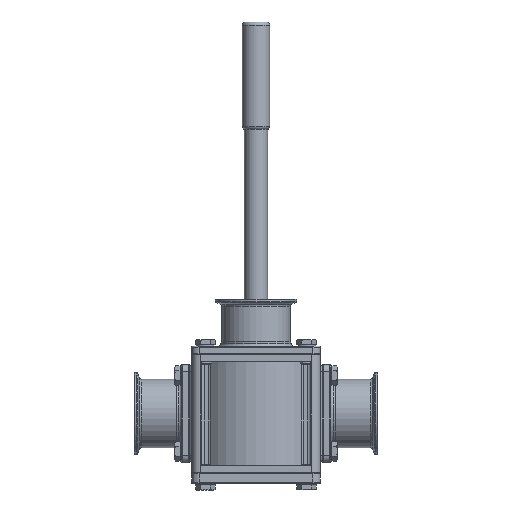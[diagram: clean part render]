
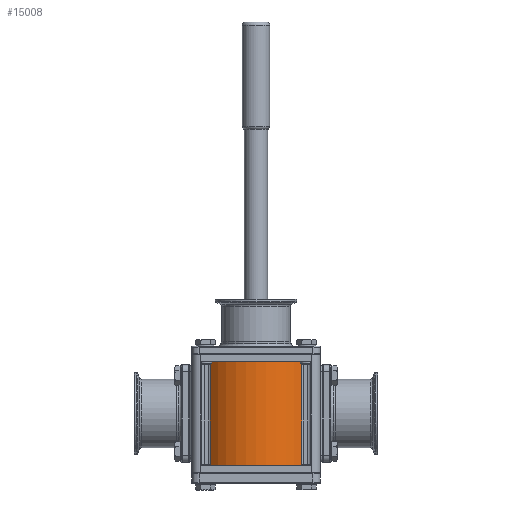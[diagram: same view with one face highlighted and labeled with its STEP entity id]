
A CAD part, front view. The second image highlights one B-rep face of the part: STEP entity #15008.
In plain terms, the highlighted cylindrical face has radius 59 mm (diameter 118 mm), a partial arc.
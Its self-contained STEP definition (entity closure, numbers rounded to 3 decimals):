
#845 = AXIS2_PLACEMENT_3D ( 'NONE', #2552, #26548, #23675 ) ;
#1434 = DIRECTION ( 'NONE',  ( 1., 0., 0. ) ) ;
#1496 = AXIS2_PLACEMENT_3D ( 'NONE', #20541, #15457, #12488 ) ;
#1658 = FACE_OUTER_BOUND ( 'NONE', #5391, .T. ) ;
#2056 = DIRECTION ( 'NONE',  ( 0., 0., 1. ) ) ;
#2552 = CARTESIAN_POINT ( 'NONE',  ( 0., 0., 49. ) ) ;
#3825 = VERTEX_POINT ( 'NONE', #9862 ) ;
#4256 = ORIENTED_EDGE ( 'NONE', *, *, #9100, .F. ) ;
#4960 = ORIENTED_EDGE ( 'NONE', *, *, #25617, .F. ) ;
#5391 = EDGE_LOOP ( 'NONE', ( #21223, #4256, #4960, #27593 ) ) ;
#7168 = CIRCLE ( 'NONE', #1496, 59. ) ;
#7749 = VERTEX_POINT ( 'NONE', #9889 ) ;
#8082 = CARTESIAN_POINT ( 'NONE',  ( -43.4, -39.968, -49. ) ) ;
#9100 = EDGE_CURVE ( 'NONE', #30353, #37465, #26400, .T. ) ;
#9862 = CARTESIAN_POINT ( 'NONE',  ( 43.4, -39.968, -49. ) ) ;
#9889 = CARTESIAN_POINT ( 'NONE',  ( 43.4, -39.968, 49. ) ) ;
#10935 = CIRCLE ( 'NONE', #845, 59. ) ;
#11498 = VECTOR ( 'NONE', #14283, 1000. ) ;
#11946 = CYLINDRICAL_SURFACE ( 'NONE', #32922, 59. ) ;
#12488 = DIRECTION ( 'NONE',  ( 1., 0., 0. ) ) ;
#14283 = DIRECTION ( 'NONE',  ( 0., 0., 1. ) ) ;
#15008 = ADVANCED_FACE ( 'NONE', ( #1658 ), #11946, .T. ) ;
#15457 = DIRECTION ( 'NONE',  ( 0., 0., -1. ) ) ;
#20082 = CARTESIAN_POINT ( 'NONE',  ( -43.4, -39.968, 49. ) ) ;
#20541 = CARTESIAN_POINT ( 'NONE',  ( 0., 0., -49. ) ) ;
#21223 = ORIENTED_EDGE ( 'NONE', *, *, #35415, .T. ) ;
#21788 = DIRECTION ( 'NONE',  ( 0., 0., 1. ) ) ;
#22154 = CARTESIAN_POINT ( 'NONE',  ( 0., 0., -49. ) ) ;
#23675 = DIRECTION ( 'NONE',  ( 1., 0., 0. ) ) ;
#25464 = VECTOR ( 'NONE', #2056, 1000. ) ;
#25617 = EDGE_CURVE ( 'NONE', #3825, #30353, #7168, .T. ) ;
#26400 = LINE ( 'NONE', #31450, #25464 ) ;
#26548 = DIRECTION ( 'NONE',  ( 0., 0., -1. ) ) ;
#27593 = ORIENTED_EDGE ( 'NONE', *, *, #34859, .T. ) ;
#30353 = VERTEX_POINT ( 'NONE', #8082 ) ;
#31450 = CARTESIAN_POINT ( 'NONE',  ( -43.4, -39.968, -49. ) ) ;
#32922 = AXIS2_PLACEMENT_3D ( 'NONE', #22154, #21788, #1434 ) ;
#33896 = LINE ( 'NONE', #38689, #11498 ) ;
#34859 = EDGE_CURVE ( 'NONE', #3825, #7749, #33896, .T. ) ;
#35415 = EDGE_CURVE ( 'NONE', #7749, #37465, #10935, .T. ) ;
#37465 = VERTEX_POINT ( 'NONE', #20082 ) ;
#38689 = CARTESIAN_POINT ( 'NONE',  ( 43.4, -39.968, -49. ) ) ;
